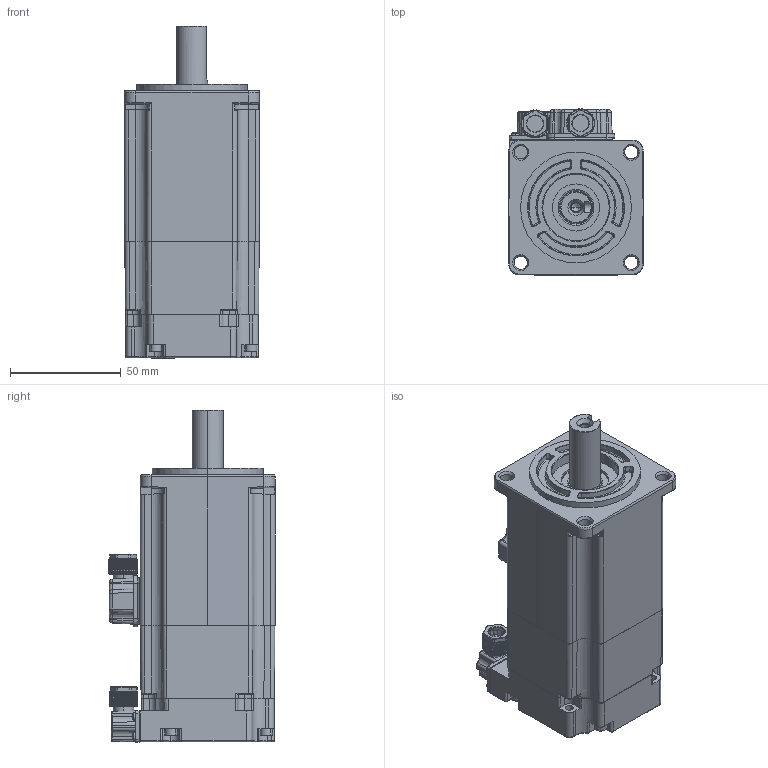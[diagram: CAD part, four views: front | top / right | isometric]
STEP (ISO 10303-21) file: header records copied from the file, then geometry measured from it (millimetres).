
FILE_DESCRIPTION (( 'STEP AP203' ), '1' );
FILE_NAME ('60一体式机壳（聚成）制动款组装图400BZ.STEP', '2024-08-01T08:33:01', ( 'MicroSoft' ), ( 'MicroSoft' ), 'SwSTEP 2.0', 'SolidWorks 2020', '' );
FILE_SCHEMA (( 'CONFIG_CONTROL_DESIGN' ));
Length unit declared in the file: millimetre
Products named in the file (11): 60一体式机壳（聚成）制动款组装图400BZ; 60 珨极宒儂褲 ㄗ擄傖ㄘ; 粣創nsk  629Z; 60呿蹋裔.stp; 60 秶雄儂褲ㄗ擄傖ㄘ; 晤鎢ん2.stp; GB╱T 70.1-2008[内六角圆柱头螺钉M3×25]_M3×25; 晤鎢ん1.stp; GB╱T 818-2000[十字槽盘头螺钉M2×6]_M2×6; GB／T276-94深沟球轴承6202-2RZ; Z60A-01-01A(60粣-秶雄遴)_400w
Assembly tree (16 placements, depth 2):
  60一体式机壳（聚成）制动款组装图400BZ
    60 珨极宒儂褲 ㄗ擄傖ㄘ
    60 秶雄儂褲ㄗ擄傖ㄘ
    GB／T276-94深沟球轴承6202-2RZ
    粣創nsk  629Z
    Z60A-01-01A(60粣-秶雄遴)_400w
    GB╱T 70.1-2008[内六角圆柱头螺钉M3×25]_M3×25  x4
    GB╱T 818-2000[十字槽盘头螺钉M2×6]_M2×6  x4
    晤鎢ん1.stp
    60呿蹋裔.stp
    晤鎢ん2.stp
Bounding box: 61.13 x 74.9 x 149.7 mm (x, y, z)
Volume: 159132.6 mm3; surface area: 100968.1 mm2
Topology: 16 solids, 16 shells, 2207 faces, 5636 edges, 3476 vertices
Faces by surface type: cylinder 749, plane 647, cone 352, bspline 217, torus 153, sphere 89
Entity records: 72623 total; most frequent: CARTESIAN_POINT 25535, ORIENTED_EDGE 10030, DIRECTION 9134, EDGE_CURVE 5015, AXIS2_PLACEMENT_3D 3700, VERTEX_POINT 3140, EDGE_LOOP 2157, FACE_OUTER_BOUND 1952
